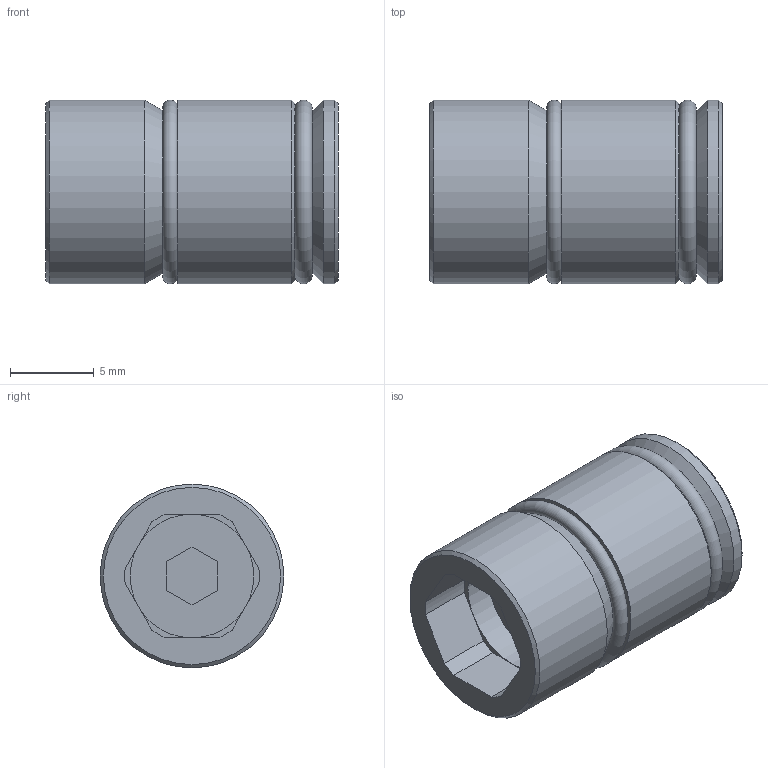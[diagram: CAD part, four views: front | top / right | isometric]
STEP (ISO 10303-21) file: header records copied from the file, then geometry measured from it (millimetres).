
FILE_DESCRIPTION( ( 'STEP AP214' ), '1' );
FILE_NAME( 'p:/temp/worker_240/temp/exporttempdir_1400_421_e3dCC/format_0/TRI-11.stp', '2021-02-05T19:27:19', ( 'License CC BY-ND 4.0' ), ( 'CADENAS' ), ' ', 'PARTsolutions', ' ' );
FILE_SCHEMA( ( 'AUTOMOTIVE_DESIGN { 1 0 10303 214 1 1 1 1 }' ) );
Length unit declared in the file: millimetre
Products named in the file (1): _TRI-11
Bounding box: 17.5 x 11 x 11 mm (x, y, z)
Volume: 1368.6 mm3; surface area: 1048.9 mm2
Topology: 1 solids, 1 shells, 41 faces, 91 edges, 56 vertices
Faces by surface type: plane 24, cylinder 10, cone 5, torus 2
Full cylindrical faces by diameter (mm): 7.4 x1, 11 x3
Entity records: 1422 total; most frequent: DIRECTION 196, CARTESIAN_POINT 180, ORIENTED_EDGE 160, EDGE_CURVE 80, AXIS2_PLACEMENT_3D 74, VERTEX_POINT 58, EDGE_LOOP 56, LINE 48
